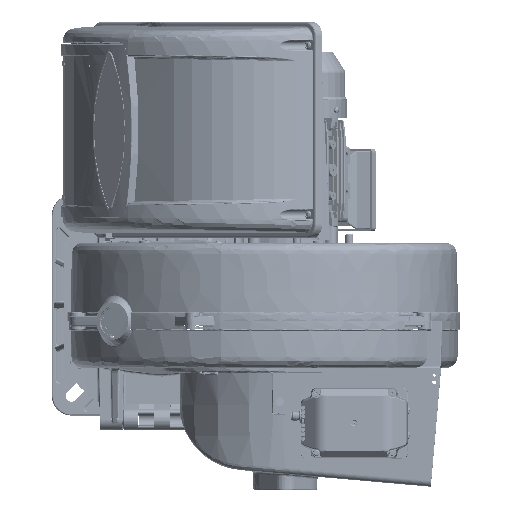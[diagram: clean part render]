
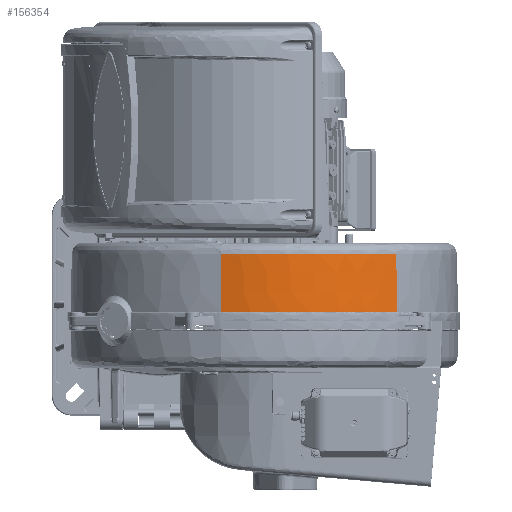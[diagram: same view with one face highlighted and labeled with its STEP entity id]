
A CAD part, left-side view. The second image highlights one B-rep face of the part: STEP entity #156354.
In plain terms, the highlighted free-form (B-spline) face has degree [3, 3] with [11, 4] control points.
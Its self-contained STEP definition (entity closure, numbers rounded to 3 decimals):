
#281 = EDGE_CURVE ( 'NONE', #102255, #139766, #169656, .T. ) ;
#8489 = CARTESIAN_POINT ( 'NONE',  ( -398.524, 81.994, 85.253 ) ) ;
#15260 = CARTESIAN_POINT ( 'NONE',  ( -405.604, 52.912, 11.983 ) ) ;
#22659 = CARTESIAN_POINT ( 'NONE',  ( -399.346, 82.222, 36.406 ) ) ;
#23256 = ORIENTED_EDGE ( 'NONE', *, *, #223925, .T. ) ;
#23973 = CARTESIAN_POINT ( 'NONE',  ( -406.469, 22.955, 60.83 ) ) ;
#25299 = CARTESIAN_POINT ( 'NONE',  ( -390.027, -64.749, 85.253 ) ) ;
#26644 = CARTESIAN_POINT ( 'NONE',  ( -344.894, -141.781, 11.983 ) ) ;
#27313 = CARTESIAN_POINT ( 'NONE',  ( -398.936, 82.103, 60.83 ) ) ;
#36136 = B_SPLINE_CURVE_WITH_KNOTS ( 'NONE', 3,
 ( #168993, #384901, #15260, #230967, #46253, #262017, #77282, #293029, #108267, #324099, #139303 ),
 .UNSPECIFIED., .F., .F.,
 ( 4, 1, 1, 1, 1, 1, 1, 1, 4 ),
 ( 0., 0.125, 0.25, 0.375, 0.5, 0.625, 0.75, 0.875, 1. ),
 .UNSPECIFIED. ) ;
#38658 = CARTESIAN_POINT ( 'NONE',  ( -344.894, -141.781, 11.983 ) ) ;
#46253 = CARTESIAN_POINT ( 'NONE',  ( -405.475, -7.002, 11.983 ) ) ;
#50678 = CARTESIAN_POINT ( 'NONE',  ( -398.524, 81.994, 85.253 ) ) ;
#53619 = CARTESIAN_POINT ( 'NONE',  ( -398.517, 82.023, 85.253 ) ) ;
#54976 = CARTESIAN_POINT ( 'NONE',  ( -405.475, -7.002, 11.983 ) ) ;
#56319 = CARTESIAN_POINT ( 'NONE',  ( -378.648, -92.425, 36.406 ) ) ;
#57635 = CARTESIAN_POINT ( 'NONE',  ( -344.251, -141.222, 60.83 ) ) ;
#61857 = VERTEX_POINT ( 'NONE', #274549 ) ;
#69194 = CARTESIAN_POINT ( 'NONE',  ( -343.938, -140.932, 85.253 ) ) ;
#77282 = CARTESIAN_POINT ( 'NONE',  ( -391.227, -65.2, 11.983 ) ) ;
#84613 = CARTESIAN_POINT ( 'NONE',  ( -401.674, 72.534, 36.406 ) ) ;
#85955 = CARTESIAN_POINT ( 'NONE',  ( -404.627, -6.899, 60.83 ) ) ;
#87291 = CARTESIAN_POINT ( 'NONE',  ( -377.89, -92.031, 85.253 ) ) ;
#100235 = CARTESIAN_POINT ( 'NONE',  ( -377.89, -92.031, 85.253 ) ) ;
#102255 = VERTEX_POINT ( 'NONE', #237929 ) ;
#108267 = CARTESIAN_POINT ( 'NONE',  ( -363.663, -118.397, 11.983 ) ) ;
#115618 = CARTESIAN_POINT ( 'NONE',  ( -400.837, 72.368, 85.253 ) ) ;
#116907 = CARTESIAN_POINT ( 'NONE',  ( -400.084, -36.525, 11.983 ) ) ;
#118247 = CARTESIAN_POINT ( 'NONE',  ( -363.31, -118.157, 36.406 ) ) ;
#120264 = CARTESIAN_POINT ( 'NONE',  ( -399.76, 82.321, 11.983 ) ) ;
#130325 = CARTESIAN_POINT ( 'NONE',  ( -343.938, -140.932, 85.253 ) ) ;
#131170 = CARTESIAN_POINT ( 'NONE',  ( -398.839, -36.221, 85.253 ) ) ;
#139303 = CARTESIAN_POINT ( 'NONE',  ( -344.894, -141.781, 11.983 ) ) ;
#139766 = VERTEX_POINT ( 'NONE', #50678 ) ;
#143051 = CARTESIAN_POINT ( 'NONE',  ( -344.894, -141.781, 11.983 ) ) ;
#146652 = CARTESIAN_POINT ( 'NONE',  ( -405.179, 52.862, 36.406 ) ) ;
#147991 = CARTESIAN_POINT ( 'NONE',  ( -399.254, -36.322, 60.83 ) ) ;
#149321 = CARTESIAN_POINT ( 'NONE',  ( -362.603, -117.677, 85.253 ) ) ;
#156354 = ADVANCED_FACE ( 'NONE', ( #277638 ), #386558, .T. ) ;
#162261 = CARTESIAN_POINT ( 'NONE',  ( -406.041, 22.956, 85.253 ) ) ;
#168993 = CARTESIAN_POINT ( 'NONE',  ( -399.76, 82.321, 11.983 ) ) ;
#169656 = B_SPLINE_CURVE_WITH_KNOTS ( 'NONE', 3,
 ( #69194, #253903, #284947, #100235, #316039, #131170, #347064, #162261, #378126, #193215, #8489 ),
 .UNSPECIFIED., .F., .F.,
 ( 4, 1, 1, 1, 1, 1, 1, 1, 4 ),
 ( 0., 0.125, 0.25, 0.375, 0.5, 0.625, 0.75, 0.875, 1. ),
 .UNSPECIFIED. ) ;
#177676 = CARTESIAN_POINT ( 'NONE',  ( -404.331, 52.762, 85.253 ) ) ;
#178995 = CARTESIAN_POINT ( 'NONE',  ( -391.227, -65.2, 11.983 ) ) ;
#180337 = CARTESIAN_POINT ( 'NONE',  ( -351.113, -133.985, 36.406 ) ) ;
#192263 = VERTEX_POINT ( 'NONE', #143051 ) ;
#193215 = CARTESIAN_POINT ( 'NONE',  ( -400.84, 72.349, 85.253 ) ) ;
#208646 = CARTESIAN_POINT ( 'NONE',  ( -406.896, 22.954, 36.406 ) ) ;
#210006 = CARTESIAN_POINT ( 'NONE',  ( -390.427, -64.9, 60.83 ) ) ;
#210549 = EDGE_CURVE ( 'NONE', #102255, #192263, #250814, .T. ) ;
#211315 = CARTESIAN_POINT ( 'NONE',  ( -350.447, -133.451, 85.253 ) ) ;
#223327 = CARTESIAN_POINT ( 'NONE',  ( -344.576, -141.498, 36.406 ) ) ;
#223925 = EDGE_CURVE ( 'NONE', #61857, #192263, #36136, .T. ) ;
#230967 = CARTESIAN_POINT ( 'NONE',  ( -407.323, 22.953, 11.983 ) ) ;
#237929 = CARTESIAN_POINT ( 'NONE',  ( -343.938, -140.932, 85.253 ) ) ;
#238348 = CARTESIAN_POINT ( 'NONE',  ( -398.931, 82.122, 60.83 ) ) ;
#238524 = B_SPLINE_CURVE_WITH_KNOTS ( 'NONE', 3,
 ( #274038, #27313, #305100, #120264 ),
 .UNSPECIFIED., .F., .F.,
 ( 4, 4 ),
 ( 0., 1. ),
 .UNSPECIFIED. ) ;
#239677 = CARTESIAN_POINT ( 'NONE',  ( -406.041, 22.956, 85.253 ) ) ;
#240972 = CARTESIAN_POINT ( 'NONE',  ( -379.028, -92.621, 11.983 ) ) ;
#242330 = CARTESIAN_POINT ( 'NONE',  ( -344.573, -141.501, 36.406 ) ) ;
#250814 = B_SPLINE_CURVE_WITH_KNOTS ( 'NONE', 3,
 ( #130325, #346220, #223327, #38658 ),
 .UNSPECIFIED., .F., .F.,
 ( 4, 4 ),
 ( 0., 1. ),
 .UNSPECIFIED. ) ;
#253903 = CARTESIAN_POINT ( 'NONE',  ( -350.452, -133.444, 85.253 ) ) ;
#262017 = CARTESIAN_POINT ( 'NONE',  ( -400.084, -36.525, 11.983 ) ) ;
#269342 = CARTESIAN_POINT ( 'NONE',  ( -402.092, 72.617, 11.983 ) ) ;
#270678 = CARTESIAN_POINT ( 'NONE',  ( -405.051, -6.951, 36.406 ) ) ;
#272040 = CARTESIAN_POINT ( 'NONE',  ( -378.269, -92.228, 60.83 ) ) ;
#273371 = CARTESIAN_POINT ( 'NONE',  ( -343.93, -140.942, 85.253 ) ) ;
#274038 = CARTESIAN_POINT ( 'NONE',  ( -398.524, 81.994, 85.253 ) ) ;
#274549 = CARTESIAN_POINT ( 'NONE',  ( -399.76, 82.321, 11.983 ) ) ;
#277638 = FACE_OUTER_BOUND ( 'NONE', #284190, .T. ) ;
#284190 = EDGE_LOOP ( 'NONE', ( #351933, #288437, #336075, #23256 ) ) ;
#284947 = CARTESIAN_POINT ( 'NONE',  ( -362.605, -117.673, 85.253 ) ) ;
#288437 = ORIENTED_EDGE ( 'NONE', *, *, #281, .T. ) ;
#293029 = CARTESIAN_POINT ( 'NONE',  ( -379.028, -92.621, 11.983 ) ) ;
#300410 = CARTESIAN_POINT ( 'NONE',  ( -401.255, 72.451, 60.83 ) ) ;
#301753 = CARTESIAN_POINT ( 'NONE',  ( -404.203, -6.848, 85.253 ) ) ;
#303075 = CARTESIAN_POINT ( 'NONE',  ( -363.663, -118.397, 11.983 ) ) ;
#305100 = CARTESIAN_POINT ( 'NONE',  ( -399.348, 82.212, 36.406 ) ) ;
#316039 = CARTESIAN_POINT ( 'NONE',  ( -390.027, -64.749, 85.253 ) ) ;
#324099 = CARTESIAN_POINT ( 'NONE',  ( -351.445, -134.252, 11.983 ) ) ;
#331418 = CARTESIAN_POINT ( 'NONE',  ( -405.604, 52.912, 11.983 ) ) ;
#332749 = CARTESIAN_POINT ( 'NONE',  ( -399.669, -36.424, 36.406 ) ) ;
#334104 = CARTESIAN_POINT ( 'NONE',  ( -362.956, -117.917, 60.83 ) ) ;
#336075 = ORIENTED_EDGE ( 'NONE', *, *, #337138, .T. ) ;
#337138 = EDGE_CURVE ( 'NONE', #139766, #61857, #238524, .T. ) ;
#346220 = CARTESIAN_POINT ( 'NONE',  ( -344.257, -141.215, 60.83 ) ) ;
#347064 = CARTESIAN_POINT ( 'NONE',  ( -404.203, -6.848, 85.253 ) ) ;
#351933 = ORIENTED_EDGE ( 'NONE', *, *, #210549, .F. ) ;
#359879 = CARTESIAN_POINT ( 'NONE',  ( -399.76, 82.321, 11.983 ) ) ;
#362527 = CARTESIAN_POINT ( 'NONE',  ( -404.755, 52.812, 60.83 ) ) ;
#363875 = CARTESIAN_POINT ( 'NONE',  ( -398.839, -36.221, 85.253 ) ) ;
#365194 = CARTESIAN_POINT ( 'NONE',  ( -351.445, -134.252, 11.983 ) ) ;
#378126 = CARTESIAN_POINT ( 'NONE',  ( -404.331, 52.753, 85.253 ) ) ;
#384901 = CARTESIAN_POINT ( 'NONE',  ( -402.092, 72.617, 11.983 ) ) ;
#386558 = B_SPLINE_SURFACE_WITH_KNOTS ( 'NONE', 3, 3, ( 
 ( #359879, #22659, #238348, #53619 ),
 ( #269342, #84613, #300410, #115618 ),
 ( #331418, #146652, #362527, #177676 ),
 ( #393593, #208646, #23973, #239677 ),
 ( #54976, #270678, #85955, #301753 ),
 ( #116907, #332749, #147991, #363875 ),
 ( #178995, #394912, #210006, #25299 ),
 ( #240972, #56319, #272040, #87291 ),
 ( #303075, #118247, #334104, #149321 ),
 ( #365194, #180337, #396247, #211315 ),
 ( #26644, #242330, #57635, #273371 ) ),
 .UNSPECIFIED., .F., .F., .F.,
 ( 4, 1, 1, 1, 1, 1, 1, 1, 4 ),
 ( 4, 4 ),
 ( 0., 29.865, 59.729, 89.594, 119.459, 149.323, 179.188, 209.053, 238.917 ),
 ( 0., 73.282 ),
 .UNSPECIFIED. ) ;
#393593 = CARTESIAN_POINT ( 'NONE',  ( -407.323, 22.953, 11.983 ) ) ;
#394912 = CARTESIAN_POINT ( 'NONE',  ( -390.827, -65.05, 36.406 ) ) ;
#396247 = CARTESIAN_POINT ( 'NONE',  ( -350.78, -133.718, 60.83 ) ) ;
